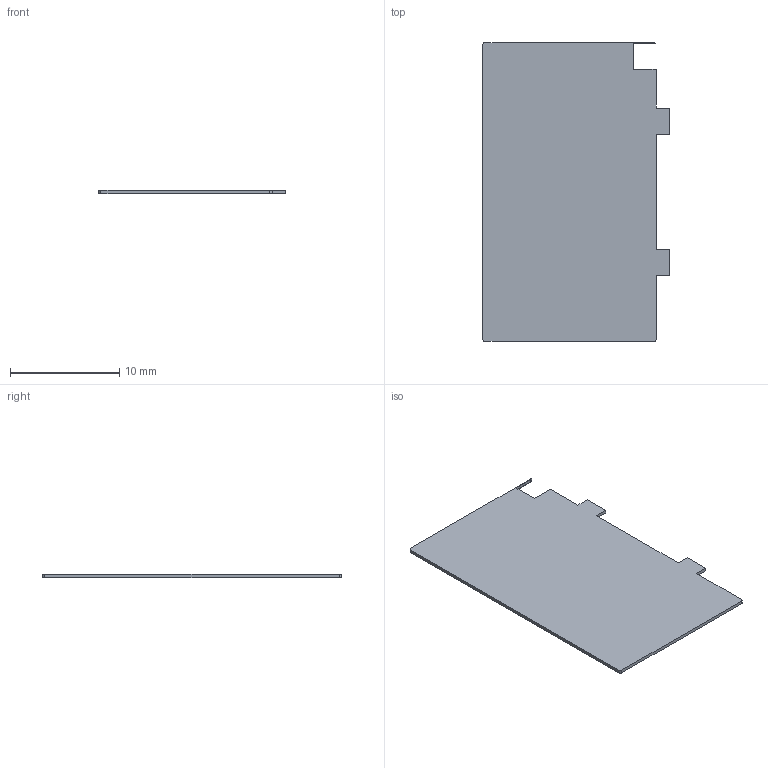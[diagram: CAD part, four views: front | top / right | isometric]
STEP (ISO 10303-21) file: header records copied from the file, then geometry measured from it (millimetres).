
FILE_DESCRIPTION(('Open CASCADE Model'),'2;1');
FILE_NAME('Open CASCADE Shape Model','2026-10-29T14:02:22',('Author'),( 'Open CASCADE'),'Open CASCADE STEP processor 7.9','Open CASCADE 7.9' ,'Unknown');
FILE_SCHEMA(('AUTOMOTIVE_DESIGN { 1 0 10303 214 1 1 1 1 }'));
Length unit declared in the file: millimetre
Products named in the file (1): Open CASCADE STEP translator 7.9 3
Bounding box: 17.1 x 27.4 x 0.3 mm (x, y, z)
Volume: 130.9 mm3; surface area: 901.3 mm2
Topology: 1 solids, 1 shells, 21 faces, 57 edges, 38 vertices
Faces by surface type: plane 17, cylinder 4
Entity records: 1421 total; most frequent: CARTESIAN_POINT 256, DIRECTION 218, LINE 154, VECTOR 154, ORIENTED_EDGE 114, PCURVE 114, DEFINITIONAL_REPRESENTATION 114, EDGE_CURVE 57
